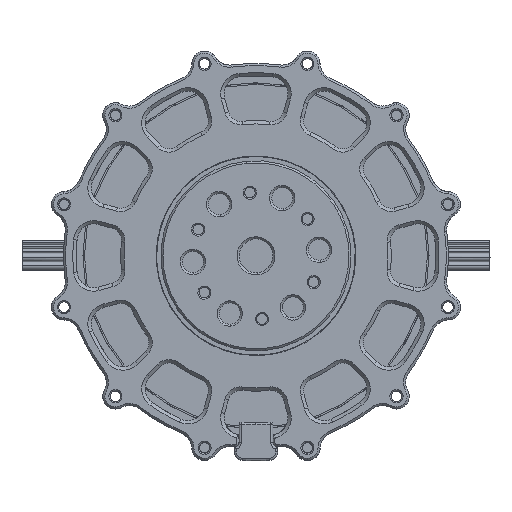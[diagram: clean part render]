
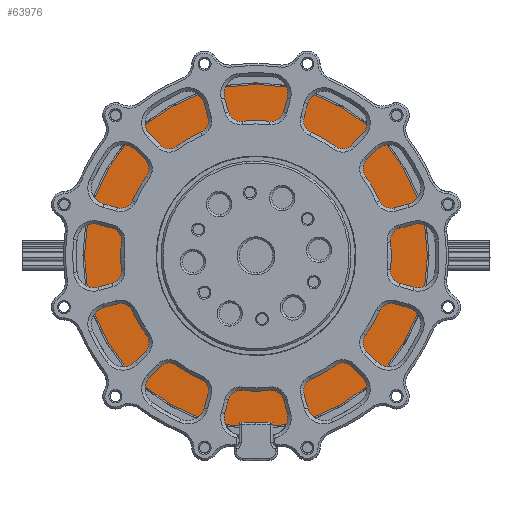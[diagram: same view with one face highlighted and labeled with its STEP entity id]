
A CAD part, front view. The second image highlights one B-rep face of the part: STEP entity #63976.
In plain terms, the highlighted planar face has unit normal (0, -1, 0).
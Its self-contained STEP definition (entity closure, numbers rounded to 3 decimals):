
#3833 = DIRECTION ( 'NONE',  ( 1., 0., 0. ) ) ;
#4648 = CARTESIAN_POINT ( 'NONE',  ( 32.697, -16.636, 118.995 ) ) ;
#9128 = AXIS2_PLACEMENT_3D ( 'NONE', #26638, #67726, #47527 ) ;
#10383 = DIRECTION ( 'NONE',  ( 1., 0., 0. ) ) ;
#17600 = ORIENTED_EDGE ( 'NONE', *, *, #34353, .F. ) ;
#20394 = FACE_OUTER_BOUND ( 'NONE', #44775, .T. ) ;
#26638 = CARTESIAN_POINT ( 'NONE',  ( -12.272, -16.635, 118.076 ) ) ;
#26852 = AXIS2_PLACEMENT_3D ( 'NONE', #30737, #44616, #10383 ) ;
#30737 = CARTESIAN_POINT ( 'NONE',  ( -7.853, -16.636, 118.995 ) ) ;
#32589 = EDGE_CURVE ( 'NONE', #56438, #48632, #66457, .T. ) ;
#33058 = DIRECTION ( 'NONE',  ( 0., -1., 0. ) ) ;
#33638 = DIRECTION ( 'NONE',  ( 1., 0., 0. ) ) ;
#34353 = EDGE_CURVE ( 'NONE', #48632, #56438, #69000, .T. ) ;
#35041 = CARTESIAN_POINT ( 'NONE',  ( -37.103, -16.636, 118.995 ) ) ;
#36080 = CIRCLE ( 'NONE', #67657, 40.55 ) ;
#36629 = CARTESIAN_POINT ( 'NONE',  ( -7.853, -16.636, 118.995 ) ) ;
#37810 = EDGE_LOOP ( 'NONE', ( #17600, #45465 ) ) ;
#39993 = VERTEX_POINT ( 'NONE', #4648 ) ;
#40128 = CARTESIAN_POINT ( 'NONE',  ( -7.853, -16.636, 118.995 ) ) ;
#44616 = DIRECTION ( 'NONE',  ( 0., -1., 0. ) ) ;
#44775 = EDGE_LOOP ( 'NONE', ( #63092, #75905 ) ) ;
#45465 = ORIENTED_EDGE ( 'NONE', *, *, #32589, .F. ) ;
#46815 = AXIS2_PLACEMENT_3D ( 'NONE', #40128, #33058, #33638 ) ;
#47527 = DIRECTION ( 'NONE',  ( 0., 0., -1. ) ) ;
#48632 = VERTEX_POINT ( 'NONE', #35041 ) ;
#53599 = VERTEX_POINT ( 'NONE', #85719 ) ;
#55519 = DIRECTION ( 'NONE',  ( 0., -1., 0. ) ) ;
#56438 = VERTEX_POINT ( 'NONE', #65191 ) ;
#59525 = AXIS2_PLACEMENT_3D ( 'NONE', #36629, #83859, #3833 ) ;
#60618 = PLANE ( 'NONE',  #9128 ) ;
#61522 = CARTESIAN_POINT ( 'NONE',  ( -7.853, -16.636, 118.995 ) ) ;
#63092 = ORIENTED_EDGE ( 'NONE', *, *, #84348, .T. ) ;
#63976 = ADVANCED_FACE ( 'NONE', ( #20394, #79579 ), #60618, .T. ) ;
#65191 = CARTESIAN_POINT ( 'NONE',  ( 21.397, -16.636, 118.995 ) ) ;
#66457 = CIRCLE ( 'NONE', #46815, 29.25 ) ;
#67657 = AXIS2_PLACEMENT_3D ( 'NONE', #61522, #55519, #68313 ) ;
#67726 = DIRECTION ( 'NONE',  ( 0., -1., 0. ) ) ;
#68313 = DIRECTION ( 'NONE',  ( 1., 0., 0. ) ) ;
#69000 = CIRCLE ( 'NONE', #59525, 29.25 ) ;
#70994 = EDGE_CURVE ( 'NONE', #53599, #39993, #36080, .T. ) ;
#73645 = CIRCLE ( 'NONE', #26852, 40.55 ) ;
#75905 = ORIENTED_EDGE ( 'NONE', *, *, #70994, .T. ) ;
#79579 = FACE_BOUND ( 'NONE', #37810, .T. ) ;
#83859 = DIRECTION ( 'NONE',  ( 0., -1., 0. ) ) ;
#84348 = EDGE_CURVE ( 'NONE', #39993, #53599, #73645, .T. ) ;
#85719 = CARTESIAN_POINT ( 'NONE',  ( -48.403, -16.636, 118.995 ) ) ;
